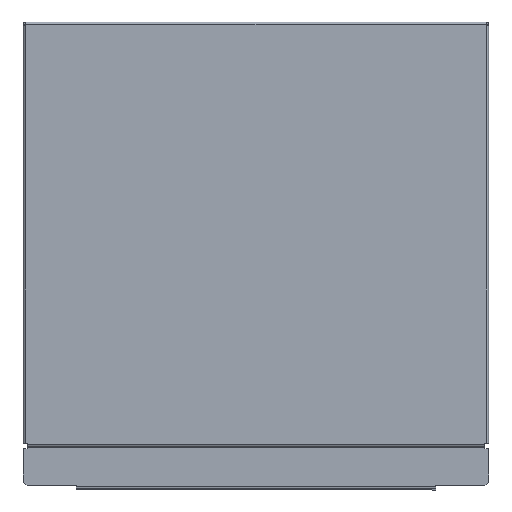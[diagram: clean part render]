
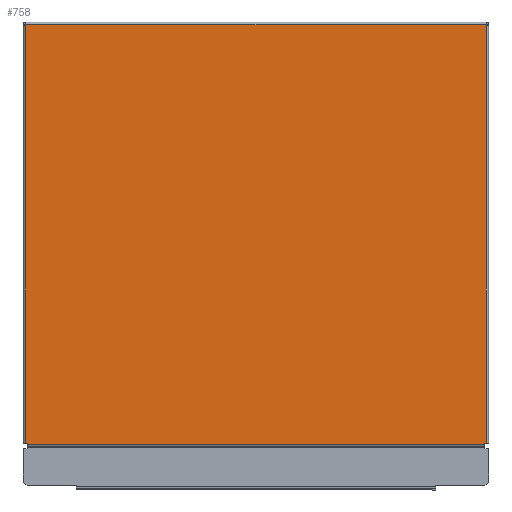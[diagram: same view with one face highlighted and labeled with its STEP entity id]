
A CAD part, front view. The second image highlights one B-rep face of the part: STEP entity #758.
In plain terms, the highlighted planar face has unit normal (0, -1, 0).
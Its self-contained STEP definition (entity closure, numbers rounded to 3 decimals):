
#36 = DIRECTION ( 'NONE',  ( 1., 0., 0. ) ) ;
#37 = DIRECTION ( 'NONE',  ( 0., -1., 0. ) ) ;
#38 = CARTESIAN_POINT ( 'NONE',  ( -92.5, -6., 17. ) ) ;
#40 = PLANE ( 'NONE',  #648 ) ;
#241 = VERTEX_POINT ( 'NONE', #396 ) ;
#252 = VERTEX_POINT ( 'NONE', #394 ) ;
#318 = VERTEX_POINT ( 'NONE', #380 ) ;
#321 = VERTEX_POINT ( 'NONE', #379 ) ;
#328 = VERTEX_POINT ( 'NONE', #377 ) ;
#342 = VERTEX_POINT ( 'NONE', #376 ) ;
#362 = CARTESIAN_POINT ( 'NONE',  ( -91., -6., 17. ) ) ;
#366 = CARTESIAN_POINT ( 'NONE',  ( -91.5, -6., 17.5 ) ) ;
#369 = CARTESIAN_POINT ( 'NONE',  ( -91.5, -6., 183.5 ) ) ;
#370 = CARTESIAN_POINT ( 'NONE',  ( -91., -6., 17.5 ) ) ;
#376 = CARTESIAN_POINT ( 'NONE',  ( 91.5, -6., 17.5 ) ) ;
#377 = CARTESIAN_POINT ( 'NONE',  ( 91., -6., 17.5 ) ) ;
#379 = CARTESIAN_POINT ( 'NONE',  ( 91., -6., 17. ) ) ;
#380 = CARTESIAN_POINT ( 'NONE',  ( 91.5, -6., 184. ) ) ;
#394 = CARTESIAN_POINT ( 'NONE',  ( 91.5, -6., 183.5 ) ) ;
#396 = CARTESIAN_POINT ( 'NONE',  ( -91.5, -6., 184. ) ) ;
#469 = VERTEX_POINT ( 'NONE', #370 ) ;
#472 = VERTEX_POINT ( 'NONE', #369 ) ;
#478 = VERTEX_POINT ( 'NONE', #366 ) ;
#486 = VERTEX_POINT ( 'NONE', #362 ) ;
#648 = AXIS2_PLACEMENT_3D ( 'NONE', #38, #37, #36 ) ;
#758 = ADVANCED_FACE ( 'NONE', ( #2090 ), #40, .T. ) ;
#849 = EDGE_CURVE ( 'NONE', #472, #478, #2214, .T. ) ;
#850 = EDGE_CURVE ( 'NONE', #478, #469, #2216, .T. ) ;
#851 = EDGE_CURVE ( 'NONE', #469, #486, #2218, .T. ) ;
#852 = EDGE_CURVE ( 'NONE', #486, #321, #2220, .T. ) ;
#853 = EDGE_CURVE ( 'NONE', #321, #328, #2222, .T. ) ;
#854 = EDGE_CURVE ( 'NONE', #328, #342, #2224, .T. ) ;
#855 = EDGE_CURVE ( 'NONE', #252, #342, #2226, .T. ) ;
#856 = EDGE_CURVE ( 'NONE', #318, #252, #2228, .T. ) ;
#857 = EDGE_CURVE ( 'NONE', #241, #318, #2230, .T. ) ;
#858 = EDGE_CURVE ( 'NONE', #241, #472, #2232, .T. ) ;
#1014 = EDGE_LOOP ( 'NONE', ( #1920, #1919, #1918, #1917, #1916, #1915, #1914, #1913, #1912, #1911 ) ) ;
#1180 = DIRECTION ( 'NONE',  ( 0., 0., -1. ) ) ;
#1183 = CARTESIAN_POINT ( 'NONE',  ( -91.5, -6., 202.385 ) ) ;
#1186 = DIRECTION ( 'NONE',  ( 1., 0., 0. ) ) ;
#1191 = CARTESIAN_POINT ( 'NONE',  ( -92.5, -6., 184. ) ) ;
#1194 = DIRECTION ( 'NONE',  ( 0., 0., -1. ) ) ;
#1197 = CARTESIAN_POINT ( 'NONE',  ( 91.5, -6., 202.385 ) ) ;
#1201 = DIRECTION ( 'NONE',  ( 0., 0., -1. ) ) ;
#1203 = CARTESIAN_POINT ( 'NONE',  ( 91.5, -6., 202.385 ) ) ;
#1208 = DIRECTION ( 'NONE',  ( 1., 0., 0. ) ) ;
#1212 = CARTESIAN_POINT ( 'NONE',  ( 91., -6., 17.5 ) ) ;
#1216 = DIRECTION ( 'NONE',  ( 0., 0., 1. ) ) ;
#1219 = CARTESIAN_POINT ( 'NONE',  ( 91., -6., 15.3 ) ) ;
#1223 = DIRECTION ( 'NONE',  ( 1., 0., 0. ) ) ;
#1225 = CARTESIAN_POINT ( 'NONE',  ( -92.5, -6., 17. ) ) ;
#1231 = DIRECTION ( 'NONE',  ( 0., 0., -1. ) ) ;
#1232 = CARTESIAN_POINT ( 'NONE',  ( -91., -6., 17.5 ) ) ;
#1237 = DIRECTION ( 'NONE',  ( 1., 0., 0. ) ) ;
#1239 = CARTESIAN_POINT ( 'NONE',  ( -92.5, -6., 17.5 ) ) ;
#1240 = DIRECTION ( 'NONE',  ( 0., 0., -1. ) ) ;
#1348 = CARTESIAN_POINT ( 'NONE',  ( -91.5, -6., 202.385 ) ) ;
#1911 = ORIENTED_EDGE ( 'NONE', *, *, #858, .T. ) ;
#1912 = ORIENTED_EDGE ( 'NONE', *, *, #857, .F. ) ;
#1913 = ORIENTED_EDGE ( 'NONE', *, *, #856, .F. ) ;
#1914 = ORIENTED_EDGE ( 'NONE', *, *, #855, .F. ) ;
#1915 = ORIENTED_EDGE ( 'NONE', *, *, #854, .T. ) ;
#1916 = ORIENTED_EDGE ( 'NONE', *, *, #853, .T. ) ;
#1917 = ORIENTED_EDGE ( 'NONE', *, *, #852, .T. ) ;
#1918 = ORIENTED_EDGE ( 'NONE', *, *, #851, .T. ) ;
#1919 = ORIENTED_EDGE ( 'NONE', *, *, #850, .T. ) ;
#1920 = ORIENTED_EDGE ( 'NONE', *, *, #849, .T. ) ;
#2090 = FACE_OUTER_BOUND ( 'NONE', #1014, .T. ) ;
#2214 = LINE ( 'NONE', #1348, #2215 ) ;
#2215 = VECTOR ( 'NONE', #1240, 1000. ) ;
#2216 = LINE ( 'NONE', #1239, #2217 ) ;
#2217 = VECTOR ( 'NONE', #1237, 1000. ) ;
#2218 = LINE ( 'NONE', #1232, #2219 ) ;
#2219 = VECTOR ( 'NONE', #1231, 1000. ) ;
#2220 = LINE ( 'NONE', #1225, #2221 ) ;
#2221 = VECTOR ( 'NONE', #1223, 1000. ) ;
#2222 = LINE ( 'NONE', #1219, #2223 ) ;
#2223 = VECTOR ( 'NONE', #1216, 1000. ) ;
#2224 = LINE ( 'NONE', #1212, #2225 ) ;
#2225 = VECTOR ( 'NONE', #1208, 1000. ) ;
#2226 = LINE ( 'NONE', #1203, #2227 ) ;
#2227 = VECTOR ( 'NONE', #1201, 1000. ) ;
#2228 = LINE ( 'NONE', #1197, #2229 ) ;
#2229 = VECTOR ( 'NONE', #1194, 1000. ) ;
#2230 = LINE ( 'NONE', #1191, #2231 ) ;
#2231 = VECTOR ( 'NONE', #1186, 1000. ) ;
#2232 = LINE ( 'NONE', #1183, #2233 ) ;
#2233 = VECTOR ( 'NONE', #1180, 1000. ) ;
